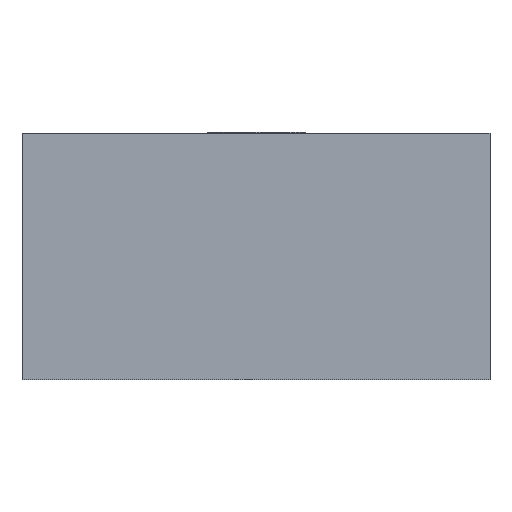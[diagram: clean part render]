
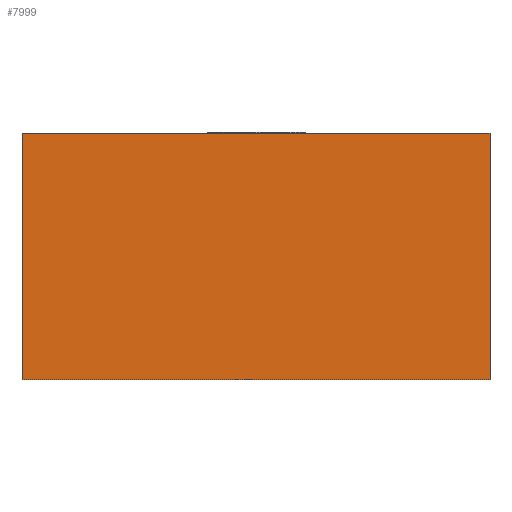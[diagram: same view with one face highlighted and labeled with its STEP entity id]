
A CAD part, front view. The second image highlights one B-rep face of the part: STEP entity #7999.
In plain terms, the highlighted planar face has unit normal (0, -1, 0).
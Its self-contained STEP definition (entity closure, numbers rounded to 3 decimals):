
#53 = LINE ( 'NONE', #6350, #280 ) ;
#208 = VECTOR ( 'NONE', #20474, 1000. ) ;
#280 = VECTOR ( 'NONE', #9570, 1000. ) ;
#357 = EDGE_CURVE ( 'NONE', #2602, #16058, #53, .T. ) ;
#919 = CARTESIAN_POINT ( 'NONE',  ( 0., 0., 10. ) ) ;
#2321 = CARTESIAN_POINT ( 'NONE',  ( 19., 0., -10. ) ) ;
#2585 = VECTOR ( 'NONE', #19606, 1000. ) ;
#2602 = VERTEX_POINT ( 'NONE', #19991 ) ;
#3464 = ORIENTED_EDGE ( 'NONE', *, *, #357, .T. ) ;
#3755 = VERTEX_POINT ( 'NONE', #9227 ) ;
#4275 = VERTEX_POINT ( 'NONE', #2321 ) ;
#4475 = CARTESIAN_POINT ( 'NONE',  ( 19., 0., 10. ) ) ;
#6350 = CARTESIAN_POINT ( 'NONE',  ( -19., 0., 10. ) ) ;
#6712 = AXIS2_PLACEMENT_3D ( 'NONE', #919, #16754, #7442 ) ;
#6738 = ORIENTED_EDGE ( 'NONE', *, *, #18313, .F. ) ;
#7337 = FACE_OUTER_BOUND ( 'NONE', #19538, .T. ) ;
#7442 = DIRECTION ( 'NONE',  ( 0., 0., -1. ) ) ;
#7762 = ORIENTED_EDGE ( 'NONE', *, *, #15295, .F. ) ;
#7999 = ADVANCED_FACE ( 'NONE', ( #7337 ), #16647, .T. ) ;
#9227 = CARTESIAN_POINT ( 'NONE',  ( 19., 0., 10. ) ) ;
#9570 = DIRECTION ( 'NONE',  ( 0., 0., -1. ) ) ;
#11008 = DIRECTION ( 'NONE',  ( 0., 0., -1. ) ) ;
#11659 = CARTESIAN_POINT ( 'NONE',  ( 0., 0., -10. ) ) ;
#13070 = VECTOR ( 'NONE', #11008, 1000. ) ;
#14177 = CARTESIAN_POINT ( 'NONE',  ( 0., 0., 10. ) ) ;
#14313 = LINE ( 'NONE', #4475, #13070 ) ;
#15295 = EDGE_CURVE ( 'NONE', #3755, #4275, #14313, .T. ) ;
#15351 = ORIENTED_EDGE ( 'NONE', *, *, #15607, .T. ) ;
#15607 = EDGE_CURVE ( 'NONE', #3755, #2602, #17566, .T. ) ;
#16058 = VERTEX_POINT ( 'NONE', #19585 ) ;
#16647 = PLANE ( 'NONE',  #6712 ) ;
#16754 = DIRECTION ( 'NONE',  ( 0., -1., 0. ) ) ;
#17566 = LINE ( 'NONE', #14177, #208 ) ;
#18313 = EDGE_CURVE ( 'NONE', #4275, #16058, #19510, .T. ) ;
#19510 = LINE ( 'NONE', #11659, #2585 ) ;
#19538 = EDGE_LOOP ( 'NONE', ( #6738, #7762, #15351, #3464 ) ) ;
#19585 = CARTESIAN_POINT ( 'NONE',  ( -19., 0., -10. ) ) ;
#19606 = DIRECTION ( 'NONE',  ( -1., 0., 0. ) ) ;
#19991 = CARTESIAN_POINT ( 'NONE',  ( -19., 0., 10. ) ) ;
#20474 = DIRECTION ( 'NONE',  ( -1., 0., 0. ) ) ;
